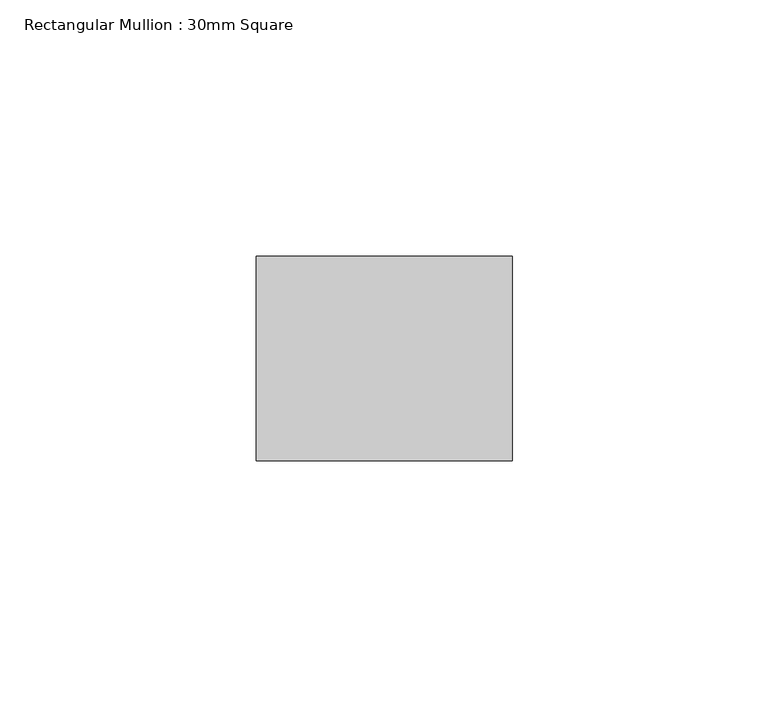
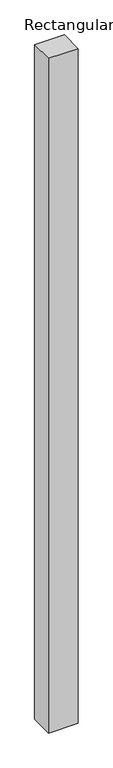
"""IFC4 building model written with IfcOpenShell, lengths in millimetres: member geometry, Rectangular Mullion : 30mm Square."""

from ifc_helpers import new_model, si_unit, frame, origin, place, context, project, spatial, polyline, outline, extrude, source, transform, mapped, element, save


def rectangular_mullion_30mm_square_6684157d(model_context):
    return source(origin(), model_context, "Body", "SweptSolid", [
        extrude(outline(polyline([(25.0, 20.0), (25.0, -20.0), (-25.0, -20.0), (-25.0, 20.0), (25.0, 20.0)])), frame((0.0, 0.0, -1197.5), z_axis=(0.0, 0.0, 1.0), x_axis=(1.0, 0.0, 0.0)), (0.0, 0.0, 1.0), 1197.5),
    ])


if __name__ == "__main__":
    model = new_model("IFC4")
    model_context = context("Model", 3, world=origin())
    ifc_project = project(units=[si_unit("LENGTHUNIT", "METRE", prefix="MILLI")], contexts=[model_context])
    site = spatial("IfcSite", under=ifc_project)
    building = spatial("IfcBuilding", under=site)
    placement = place(None, origin())
    rectangular_mullion_30mm_square_shape = rectangular_mullion_30mm_square_6684157d(model_context)
    element("IfcMember", 1, ObjectType="Rectangular Mullion : 30mm Square", at=placement, inside=building, context=model_context, shape_type="MappedRepresentation", body=[
        mapped(rectangular_mullion_30mm_square_shape, transform((0.0, 0.0, 0.0), x_axis=(1.0, 0.0, 0.0), y_axis=(0.0, 1.0, 0.0), z_axis=(0.0, 0.0, 1.0))),
    ])
    save(model, "model.ifc")
